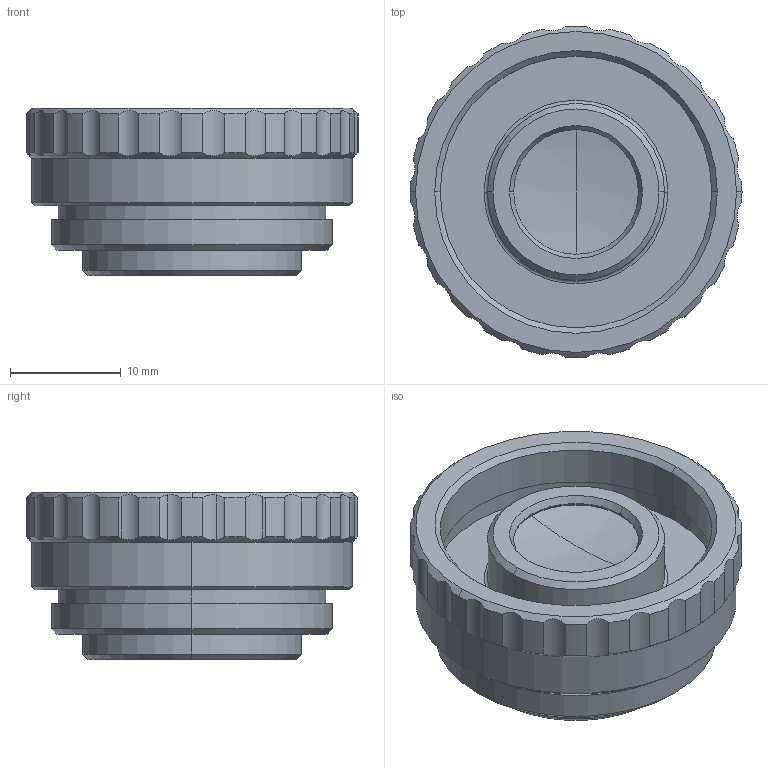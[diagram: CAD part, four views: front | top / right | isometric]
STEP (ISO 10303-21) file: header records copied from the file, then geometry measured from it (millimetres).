
FILE_DESCRIPTION (( 'STEP AP214' ), '1' );
FILE_NAME ('ML-RM1.5X-16C.STEP', '2026-02-24T06:35:14', ( '' ), ( '' ), 'SwSTEP 2.0', 'SolidWorks 2025', '' );
FILE_SCHEMA (( 'AUTOMOTIVE_DESIGN' ));
Length unit declared in the file: millimetre
Products named in the file (1): ML-RM1.5X-16C
Bounding box: 30 x 29.99 x 15.11 mm (x, y, z)
Volume: 6074.6 mm3; surface area: 3536.8 mm2
Topology: 1 solids, 1 shells, 125 faces, 319 edges, 204 vertices
Faces by surface type: cylinder 75, cone 28, plane 16, sphere 4, torus 2
Entity records: 4264 total; most frequent: CARTESIAN_POINT 1213, DIRECTION 647, ORIENTED_EDGE 638, EDGE_CURVE 319, AXIS2_PLACEMENT_3D 266, VERTEX_POINT 204, CIRCLE 140, EDGE_LOOP 133
